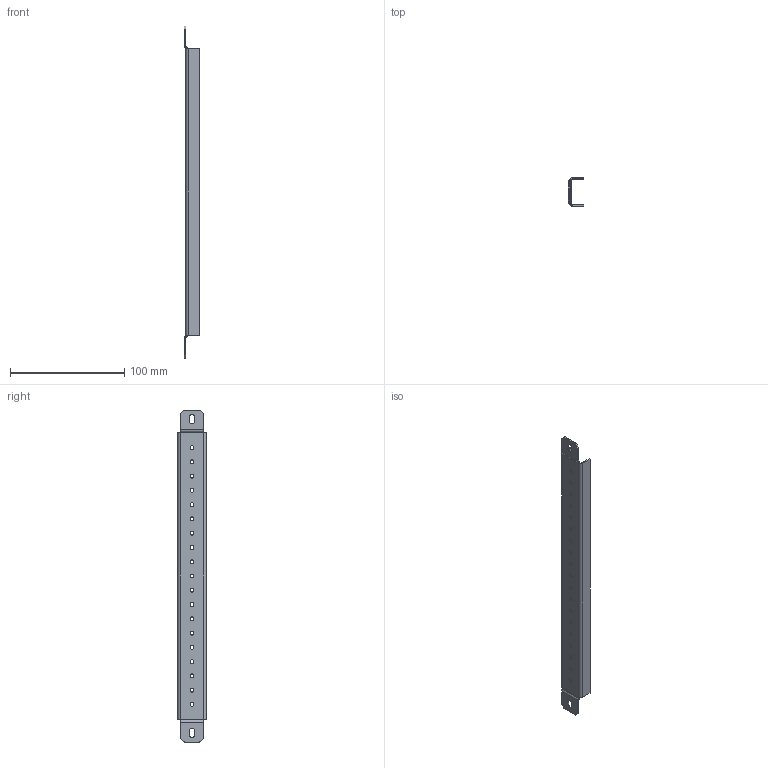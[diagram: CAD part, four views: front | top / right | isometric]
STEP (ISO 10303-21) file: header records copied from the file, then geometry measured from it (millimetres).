
FILE_DESCRIPTION (( 'STEP AP214' ), '1' );
FILE_NAME ('RGD Y Ðåéêà ãîðèçîíòàëüíàÿ.STEP', '2023-11-09T08:49:04', ( '' ), ( '' ), 'SwSTEP 2.0', 'SolidWorks 2019', '' );
FILE_SCHEMA (( 'AUTOMOTIVE_DESIGN' ));
Length unit declared in the file: millimetre
Products named in the file (1): RGD Y Ðåéêà ãîðèçîíòàëüíàÿ
Bounding box: 13.2 x 25 x 291 mm (x, y, z)
Volume: 14232.3 mm3; surface area: 24821.8 mm2
Topology: 1 solids, 1 shells, 116 faces, 294 edges, 180 vertices
Faces by surface type: cylinder 66, plane 50
Entity records: 3604 total; most frequent: DIRECTION 660, CARTESIAN_POINT 591, ORIENTED_EDGE 588, EDGE_CURVE 294, AXIS2_PLACEMENT_3D 249, VERTEX_POINT 180, VECTOR 162, LINE 162
